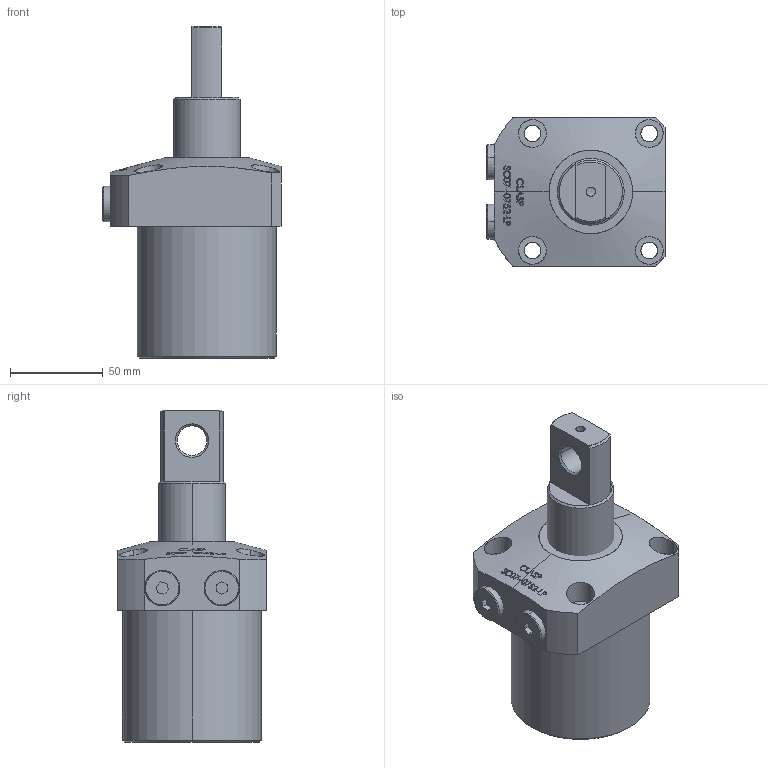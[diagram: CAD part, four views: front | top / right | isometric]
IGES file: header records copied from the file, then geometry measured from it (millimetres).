
Start section: SolidWorks IGES file using analytic representation for surfaces
Global section: file name: D:\karuppas\Clasp\3D model\SWING CYLINDER\Top Mounting swing cylinder-P type\SC07-0752-LP\SC07-0752-LP.IGS; native system: SolidWorks 2017; preprocessor: SolidWorks 2017; author: pc; date: 220708.222838; units: millimetre
Bounding box: 96 x 80 x 179 mm (x, y, z)
Surface area: 60815.7 mm2 (no closed solid volume)
Topology: 0 solids, 0 shells, 314 faces, 5542 edges, 5542 vertices
Faces by surface type: bspline 239, revolution 75
